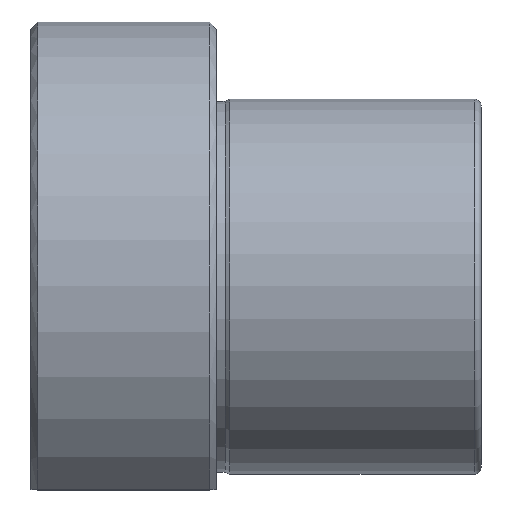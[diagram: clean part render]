
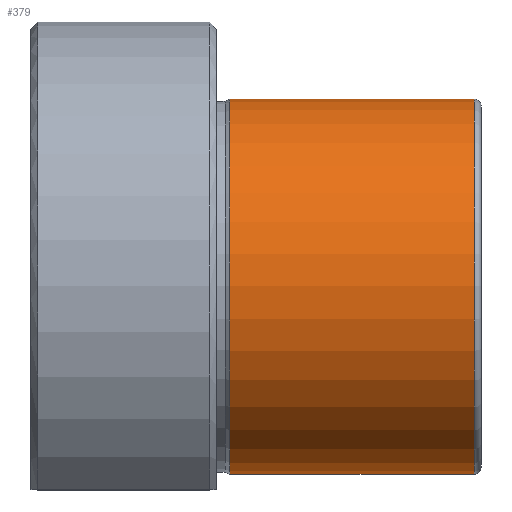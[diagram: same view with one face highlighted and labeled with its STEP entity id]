
A CAD part, top view. The second image highlights one B-rep face of the part: STEP entity #379.
In plain terms, the highlighted cylindrical face has radius 42.5 mm (diameter 85 mm), a full revolution.
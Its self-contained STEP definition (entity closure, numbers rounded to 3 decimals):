
#42=LINE('',#635,#56);
#56=VECTOR('',#520,42.5);
#69=CYLINDRICAL_SURFACE('',#438,42.5);
#84=FACE_OUTER_BOUND('',#112,.T.);
#112=EDGE_LOOP('',(#277,#278,#279,#280,#281));
#150=CIRCLE('',#436,42.5);
#151=CIRCLE('',#437,42.5);
#152=CIRCLE('',#439,42.5);
#179=VERTEX_POINT('',#628);
#180=VERTEX_POINT('',#630);
#181=VERTEX_POINT('',#634);
#215=EDGE_CURVE('',#179,#180,#150,.T.);
#216=EDGE_CURVE('',#180,#179,#151,.T.);
#217=EDGE_CURVE('',#180,#181,#42,.T.);
#218=EDGE_CURVE('',#181,#181,#152,.T.);
#277=ORIENTED_EDGE('',*,*,#216,.F.);
#278=ORIENTED_EDGE('',*,*,#217,.T.);
#279=ORIENTED_EDGE('',*,*,#218,.T.);
#280=ORIENTED_EDGE('',*,*,#217,.F.);
#281=ORIENTED_EDGE('',*,*,#215,.F.);
#379=ADVANCED_FACE('',(#84),#69,.T.);
#436=AXIS2_PLACEMENT_3D('',#631,#514,#515);
#437=AXIS2_PLACEMENT_3D('',#632,#516,#517);
#438=AXIS2_PLACEMENT_3D('',#633,#518,#519);
#439=AXIS2_PLACEMENT_3D('',#636,#521,#522);
#514=DIRECTION('center_axis',(1.,0.,0.));
#515=DIRECTION('ref_axis',(0.,-1.,0.));
#516=DIRECTION('center_axis',(1.,0.,0.));
#517=DIRECTION('ref_axis',(0.,-1.,0.));
#518=DIRECTION('center_axis',(1.,0.,0.));
#519=DIRECTION('ref_axis',(0.,1.,0.));
#520=DIRECTION('',(-1.,0.,0.));
#521=DIRECTION('center_axis',(1.,0.,0.));
#522=DIRECTION('ref_axis',(0.,0.,-1.));
#628=CARTESIAN_POINT('',(100.5,0.,42.5));
#630=CARTESIAN_POINT('',(100.5,-42.5,0.));
#631=CARTESIAN_POINT('Origin',(100.5,0.,0.));
#632=CARTESIAN_POINT('Origin',(100.5,0.,0.));
#633=CARTESIAN_POINT('Origin',(73.5,0.,0.));
#634=CARTESIAN_POINT('',(45.,-42.5,0.));
#635=CARTESIAN_POINT('',(73.5,-42.5,0.));
#636=CARTESIAN_POINT('Origin',(45.,0.,0.));
